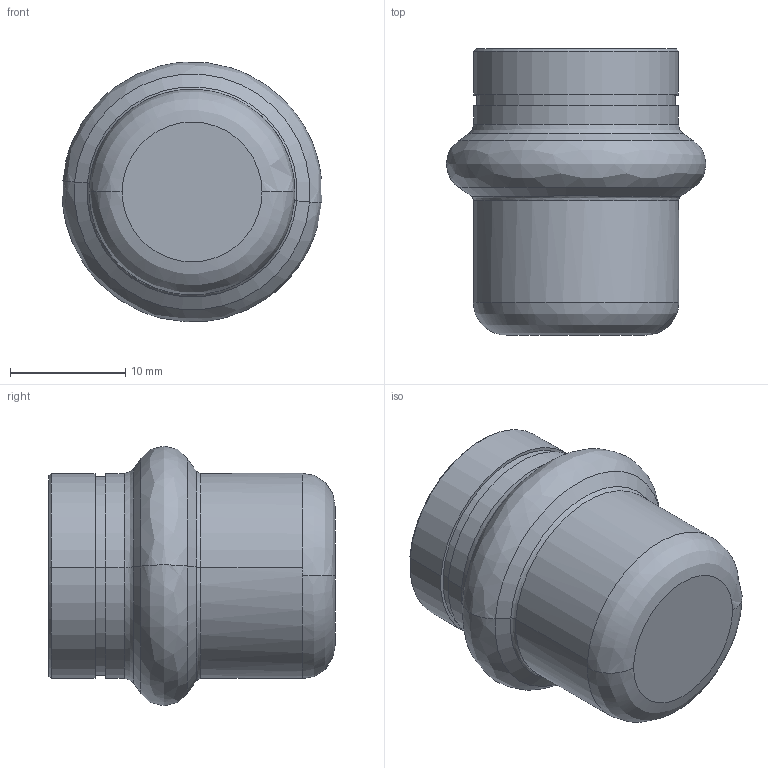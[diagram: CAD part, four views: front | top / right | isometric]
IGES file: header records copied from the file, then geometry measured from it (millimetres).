
Start section: Elysium IGES Interface
Global section: file name: C:\3d modellen sudo\S-Pr VP\SP6301V\6301VW15.igs; native system: CoCreate Modeling 17.00A  17-Jun-2010; preprocessor: CoCreate IGES_3D V2.2; author: Unknown; organization: Unknown; date: 20130129.103213; units: millimetre
Bounding box: 22.51 x 24.85 x 22.56 mm (x, y, z)
Volume: 2577.6 mm3; surface area: 3226.6 mm2
Topology: 1 solids, 1 shells, 40 faces, 80 edges, 48 vertices
Faces by surface type: bspline 40
